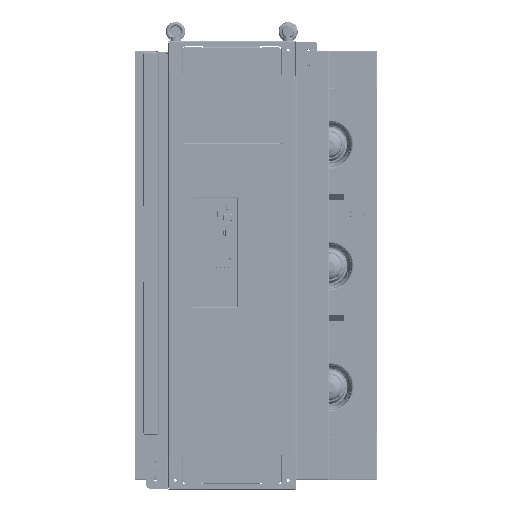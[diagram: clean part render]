
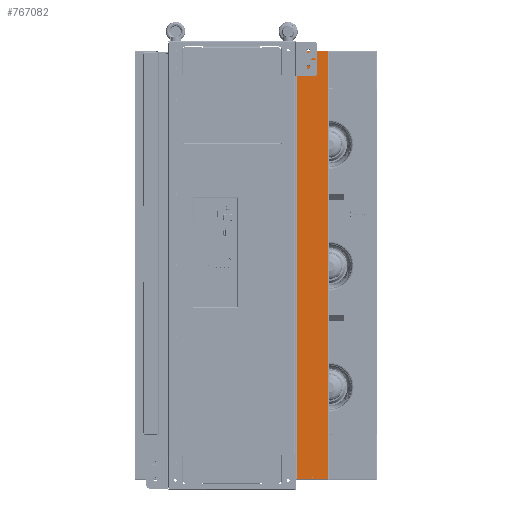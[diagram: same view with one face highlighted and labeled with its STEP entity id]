
A CAD part, top view. The second image highlights one B-rep face of the part: STEP entity #767082.
In plain terms, the highlighted planar face has unit normal (0, 0, 1).
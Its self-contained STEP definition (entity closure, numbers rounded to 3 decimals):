
#21768 = CARTESIAN_POINT ( 'NONE',  ( 119.383, 547.888, 112.351 ) ) ;
#28864 = ORIENTED_EDGE ( 'NONE', *, *, #670126, .F. ) ;
#60737 = AXIS2_PLACEMENT_3D ( 'NONE', #372057, #905270, #827208 ) ;
#68614 = DIRECTION ( 'NONE',  ( 0., 1., 0. ) ) ;
#75723 = AXIS2_PLACEMENT_3D ( 'NONE', #783677, #788456, #113299 ) ;
#80871 = EDGE_LOOP ( 'NONE', ( #695374, #374441 ) ) ;
#81453 = DIRECTION ( 'NONE',  ( 0., 0., -1. ) ) ;
#81786 = DIRECTION ( 'NONE',  ( 0., 1., 0. ) ) ;
#105525 = CIRCLE ( 'NONE', #449032, 2.1 ) ;
#107000 = CIRCLE ( 'NONE', #75723, 2.1 ) ;
#112695 = CARTESIAN_POINT ( 'NONE',  ( 74.783, -651.959, 112.351 ) ) ;
#113299 = DIRECTION ( 'NONE',  ( -1., 0., 0. ) ) ;
#117152 = CARTESIAN_POINT ( 'NONE',  ( 117.283, 547.888, 112.351 ) ) ;
#128199 = CARTESIAN_POINT ( 'NONE',  ( 117.283, -646.412, 112.351 ) ) ;
#155523 = ORIENTED_EDGE ( 'NONE', *, *, #571293, .F. ) ;
#165647 = CARTESIAN_POINT ( 'NONE',  ( 163.983, -651.959, 112.351 ) ) ;
#173284 = EDGE_CURVE ( 'NONE', #209748, #313440, #482307, .T. ) ;
#209748 = VERTEX_POINT ( 'NONE', #128199 ) ;
#210207 = VERTEX_POINT ( 'NONE', #112695 ) ;
#225769 = FACE_BOUND ( 'NONE', #527914, .T. ) ;
#230573 = CARTESIAN_POINT ( 'NONE',  ( 72.983, -651.512, 112.351 ) ) ;
#247885 = CARTESIAN_POINT ( 'NONE',  ( 121.483, 547.888, 112.351 ) ) ;
#256107 = DIRECTION ( 'NONE',  ( 0., 0., -1. ) ) ;
#307432 = EDGE_CURVE ( 'NONE', #634458, #308664, #107000, .T. ) ;
#308664 = VERTEX_POINT ( 'NONE', #117152 ) ;
#309795 = VERTEX_POINT ( 'NONE', #780979 ) ;
#313440 = VERTEX_POINT ( 'NONE', #359308 ) ;
#338345 = AXIS2_PLACEMENT_3D ( 'NONE', #230573, #538775, #382234 ) ;
#359308 = CARTESIAN_POINT ( 'NONE',  ( 121.483, -646.412, 112.351 ) ) ;
#362837 = DIRECTION ( 'NONE',  ( -1., 0., 0. ) ) ;
#370074 = DIRECTION ( 'NONE',  ( -1., 0., 0. ) ) ;
#372057 = CARTESIAN_POINT ( 'NONE',  ( 119.383, -646.412, 112.351 ) ) ;
#374441 = ORIENTED_EDGE ( 'NONE', *, *, #307432, .T. ) ;
#375209 = CARTESIAN_POINT ( 'NONE',  ( 163.983, -651.512, 112.351 ) ) ;
#382234 = DIRECTION ( 'NONE',  ( 0., 1., 0. ) ) ;
#400984 = CARTESIAN_POINT ( 'NONE',  ( 74.783, 553.434, 112.351 ) ) ;
#415550 = VECTOR ( 'NONE', #81786, 1000. ) ;
#429804 = ORIENTED_EDGE ( 'NONE', *, *, #173284, .T. ) ;
#431810 = CARTESIAN_POINT ( 'NONE',  ( 163.983, 553.434, 112.351 ) ) ;
#444953 = CARTESIAN_POINT ( 'NONE',  ( 74.783, -651.512, 112.351 ) ) ;
#449032 = AXIS2_PLACEMENT_3D ( 'NONE', #21768, #256107, #921689 ) ;
#449079 = VERTEX_POINT ( 'NONE', #400984 ) ;
#482222 = ORIENTED_EDGE ( 'NONE', *, *, #513812, .T. ) ;
#482307 = CIRCLE ( 'NONE', #60737, 2.1 ) ;
#508894 = LINE ( 'NONE', #444953, #953399 ) ;
#509389 = ORIENTED_EDGE ( 'NONE', *, *, #848974, .T. ) ;
#513812 = EDGE_CURVE ( 'NONE', #309795, #449079, #803867, .T. ) ;
#516835 = AXIS2_PLACEMENT_3D ( 'NONE', #825202, #81453, #370074 ) ;
#527914 = EDGE_LOOP ( 'NONE', ( #429804, #509389 ) ) ;
#538775 = DIRECTION ( 'NONE',  ( 0., 0., -1. ) ) ;
#571293 = EDGE_CURVE ( 'NONE', #585598, #210207, #886465, .T. ) ;
#585598 = VERTEX_POINT ( 'NONE', #165647 ) ;
#588035 = CARTESIAN_POINT ( 'NONE',  ( 163.983, -651.959, 112.351 ) ) ;
#617041 = FACE_BOUND ( 'NONE', #80871, .T. ) ;
#634458 = VERTEX_POINT ( 'NONE', #247885 ) ;
#655435 = EDGE_CURVE ( 'NONE', #585598, #309795, #688314, .T. ) ;
#670126 = EDGE_CURVE ( 'NONE', #210207, #449079, #508894, .T. ) ;
#688314 = LINE ( 'NONE', #375209, #415550 ) ;
#695374 = ORIENTED_EDGE ( 'NONE', *, *, #928345, .T. ) ;
#715896 = DIRECTION ( 'NONE',  ( -1., 0., 0. ) ) ;
#724045 = ORIENTED_EDGE ( 'NONE', *, *, #655435, .T. ) ;
#754212 = FACE_OUTER_BOUND ( 'NONE', #947256, .T. ) ;
#767082 = ADVANCED_FACE ( 'NONE', ( #225769, #617041, #754212 ), #842199, .F. ) ;
#780979 = CARTESIAN_POINT ( 'NONE',  ( 163.983, 553.434, 112.351 ) ) ;
#782318 = CIRCLE ( 'NONE', #516835, 2.1 ) ;
#783677 = CARTESIAN_POINT ( 'NONE',  ( 119.383, 547.888, 112.351 ) ) ;
#788456 = DIRECTION ( 'NONE',  ( 0., 0., -1. ) ) ;
#803867 = LINE ( 'NONE', #431810, #923776 ) ;
#825202 = CARTESIAN_POINT ( 'NONE',  ( 119.383, -646.412, 112.351 ) ) ;
#827208 = DIRECTION ( 'NONE',  ( -1., 0., 0. ) ) ;
#842199 = PLANE ( 'NONE',  #338345 ) ;
#848974 = EDGE_CURVE ( 'NONE', #313440, #209748, #782318, .T. ) ;
#886465 = LINE ( 'NONE', #588035, #896667 ) ;
#896667 = VECTOR ( 'NONE', #362837, 1000. ) ;
#905270 = DIRECTION ( 'NONE',  ( 0., 0., -1. ) ) ;
#921689 = DIRECTION ( 'NONE',  ( -1., 0., 0. ) ) ;
#923776 = VECTOR ( 'NONE', #715896, 1000. ) ;
#928345 = EDGE_CURVE ( 'NONE', #308664, #634458, #105525, .T. ) ;
#947256 = EDGE_LOOP ( 'NONE', ( #28864, #155523, #724045, #482222 ) ) ;
#953399 = VECTOR ( 'NONE', #68614, 1000. ) ;
